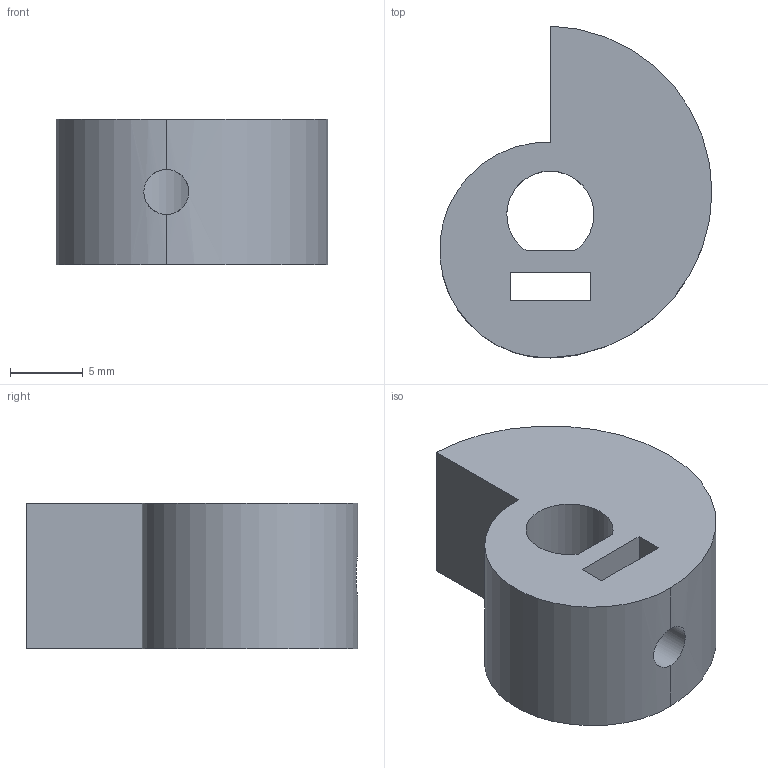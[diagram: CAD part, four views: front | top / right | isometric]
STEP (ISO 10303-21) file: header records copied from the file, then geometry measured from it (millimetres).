
FILE_DESCRIPTION(/* description */ ('Alibre Inc.'),/* implementation_level */ '2;1');
FILE_NAME(/* name */ 'export-5D0ED917-6CD7-4E7B-A181-4A8031A32FD3',/* time_stamp */ '2023-05-25T19:49:31+01:00',/* author */ (''),/* organization */ (''),/* preprocessor_version */ 'ST-DEVELOPER v17',/* originating_system */ 'Alibre',/* authorisation */ '');
FILE_SCHEMA (('AUTOMOTIVE_DESIGN'));
Length unit declared in the file: millimetre
Bounding box: 18.74 x 22.87 x 10 mm (x, y, z)
Volume: 2465.3 mm3; surface area: 1529.9 mm2
Topology: 1 solids, 1 shells, 13 faces, 37 edges, 25 vertices
Faces by surface type: plane 8, cylinder 5
Full cylindrical faces by diameter (mm): 3.1 x2
Entity records: 453 total; most frequent: CARTESIAN_POINT 110, ORIENTED_EDGE 66, DIRECTION 55, EDGE_CURVE 33, VERTEX_POINT 23, EDGE_LOOP 22, FACE_BOUND 22, VECTOR 21
